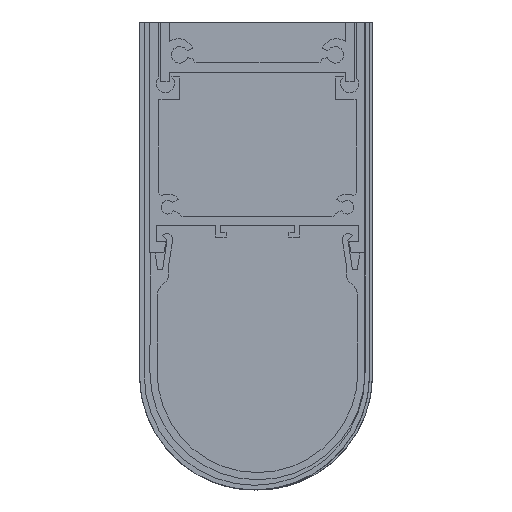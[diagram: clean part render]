
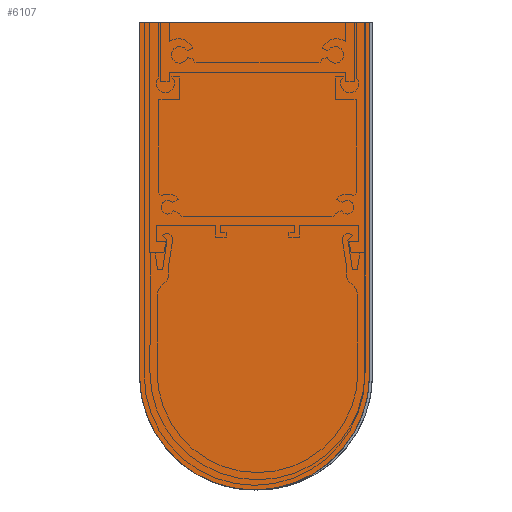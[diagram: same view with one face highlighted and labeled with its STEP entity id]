
A CAD part, left-side view. The second image highlights one B-rep face of the part: STEP entity #6107.
In plain terms, the highlighted planar face has unit normal (-1, 0, 0) as drawn and (0, 1, 0) by its records, which use the part's own axes.
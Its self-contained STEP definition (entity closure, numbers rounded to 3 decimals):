
#103=PLANE('',#6486);
#428=FACE_OUTER_BOUND('',#780,.T.);
#780=EDGE_LOOP('',(#4383,#4384,#4385,#4386));
#1172=LINE('',#8624,#1980);
#1177=LINE('',#8634,#1985);
#1178=LINE('',#8636,#1986);
#1980=VECTOR('',#6960,304.8);
#1985=VECTOR('',#6971,304.8);
#1986=VECTOR('',#6974,304.8);
#2783=CIRCLE('',#6482,19.25);
#2863=VERTEX_POINT('',#8622);
#2864=VERTEX_POINT('',#8623);
#2865=VERTEX_POINT('',#8628);
#2866=VERTEX_POINT('',#8632);
#3457=EDGE_CURVE('',#2863,#2864,#1172,.T.);
#3460=EDGE_CURVE('',#2864,#2865,#2783,.T.);
#3463=EDGE_CURVE('',#2865,#2866,#1177,.T.);
#3464=EDGE_CURVE('',#2866,#2863,#1178,.T.);
#4383=ORIENTED_EDGE('',*,*,#3457,.T.);
#4384=ORIENTED_EDGE('',*,*,#3460,.T.);
#4385=ORIENTED_EDGE('',*,*,#3463,.T.);
#4386=ORIENTED_EDGE('',*,*,#3464,.T.);
#6107=ADVANCED_FACE('',(#428),#103,.T.);
#6482=AXIS2_PLACEMENT_3D('',#8629,#6965,#6966);
#6486=AXIS2_PLACEMENT_3D('',#8639,#6978,#6979);
#6960=DIRECTION('',(0.,0.,1.));
#6965=DIRECTION('center_axis',(0.,1.,0.));
#6966=DIRECTION('ref_axis',(1.,0.,0.));
#6971=DIRECTION('',(0.,0.,-1.));
#6974=DIRECTION('',(-1.,0.,0.));
#6978=DIRECTION('center_axis',(0.,1.,0.));
#6979=DIRECTION('ref_axis',(0.,0.,1.));
#8622=CARTESIAN_POINT('',(-19.749,150.7,0.));
#8623=CARTESIAN_POINT('',(-19.749,150.7,59.068));
#8624=CARTESIAN_POINT('',(-19.749,150.7,0.));
#8628=CARTESIAN_POINT('',(18.751,150.7,59.068));
#8629=CARTESIAN_POINT('Origin',(-0.499,150.7,59.068));
#8632=CARTESIAN_POINT('',(18.751,150.7,0.));
#8634=CARTESIAN_POINT('',(18.751,150.7,59.068));
#8636=CARTESIAN_POINT('',(18.751,150.7,0.));
#8639=CARTESIAN_POINT('Origin',(-19.749,150.7,58.75));
